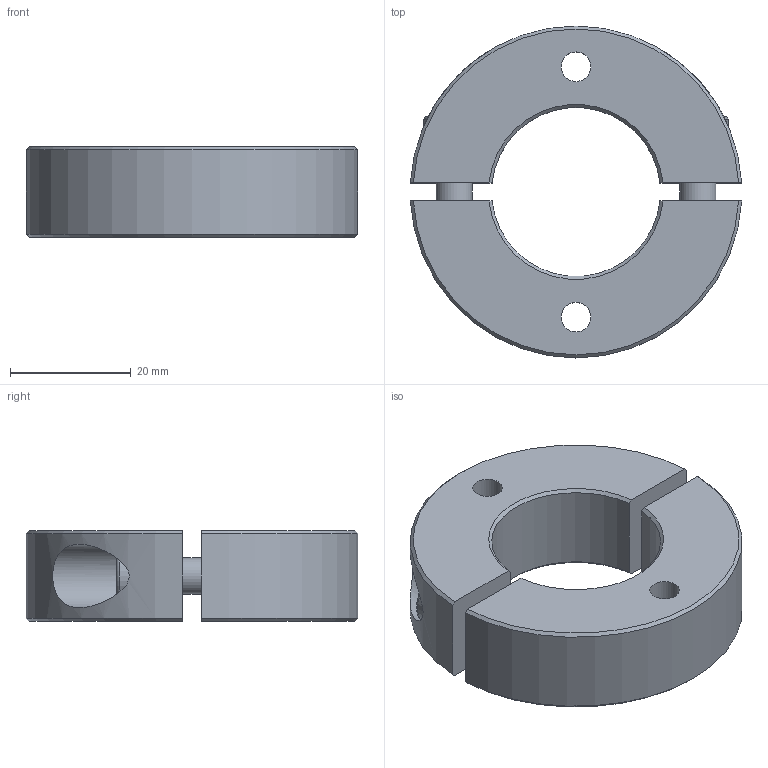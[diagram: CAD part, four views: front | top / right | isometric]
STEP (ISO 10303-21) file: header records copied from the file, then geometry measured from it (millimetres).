
FILE_DESCRIPTION( ( 'STEP AP203' ), '1' );
FILE_NAME( 'C:/Temp/Ganter_Step_05_03_2020/data/3_2/gn7072_2/Split Stainless Steel-Set collar GN 7072.2-55-B28-NI-C.stp', '2020-03-13T05:41:08', ( 'License CC BY-ND 4.0' ), ( 'CADENAS' ), ' ', 'PARTsolutions', ' ' );
FILE_SCHEMA( ( 'CONFIG_CONTROL_DESIGN' ) );
Length unit declared in the file: millimetre
Products named in the file (1): _Split Stainless Steel-Set collar GN 7072.2-55-B28-NI-C
Bounding box: 54.92 x 55 x 15 mm (x, y, z)
Volume: 23413.8 mm3; surface area: 9677.7 mm2
Topology: 1 solids, 1 shells, 52 faces, 123 edges, 83 vertices
Faces by surface type: plane 28, cylinder 14, cone 8, torus 2
Full cylindrical faces by diameter (mm): 4.917 x2, 6 x2, 6.4 x2, 10 x2, 10.5 x2
Entity records: 1632 total; most frequent: CARTESIAN_POINT 447, DIRECTION 230, ORIENTED_EDGE 212, EDGE_CURVE 106, AXIS2_PLACEMENT_3D 89, EDGE_LOOP 80, VERTEX_POINT 78, FACE_OUTER_BOUND 64
